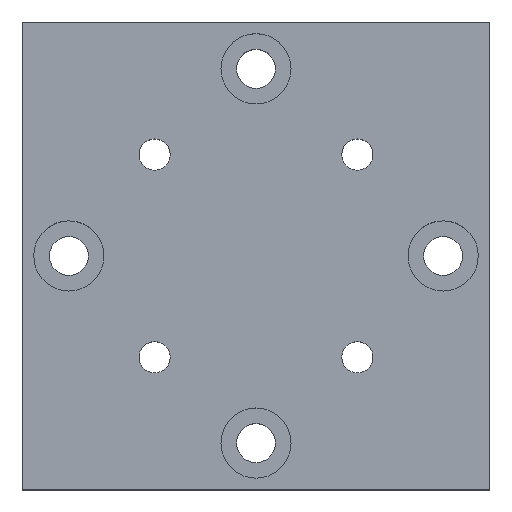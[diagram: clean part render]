
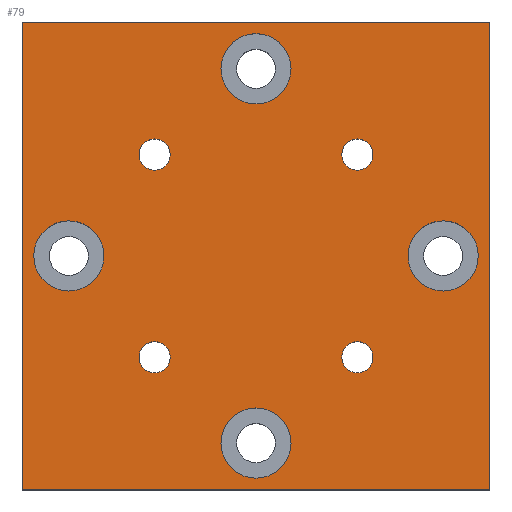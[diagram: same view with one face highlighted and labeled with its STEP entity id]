
A CAD part, top view. The second image highlights one B-rep face of the part: STEP entity #79.
In plain terms, the highlighted planar face has unit normal (0, 0, 1).
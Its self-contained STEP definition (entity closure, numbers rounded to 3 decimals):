
#79=ADVANCED_FACE('',(#158,#159,#160,#161,#162,#163,#164,#165,#166),#157,.T.);
#157=PLANE('',#500);
#158=FACE_OUTER_BOUND('',#501,.T.);
#159=FACE_BOUND('',#502,.T.);
#160=FACE_BOUND('',#503,.T.);
#161=FACE_BOUND('',#504,.T.);
#162=FACE_BOUND('',#505,.T.);
#163=FACE_BOUND('',#506,.T.);
#164=FACE_BOUND('',#507,.T.);
#165=FACE_BOUND('',#508,.T.);
#166=FACE_BOUND('',#509,.T.);
#497=CARTESIAN_POINT('',(-18.,-18.,0.));
#498=DIRECTION('',(0.,0.,1.));
#499=DIRECTION('',(1.,0.,0.));
#500=AXIS2_PLACEMENT_3D('',#497,#498,#499);
#501=EDGE_LOOP('',(#691,#692,#693,#694));
#502=EDGE_LOOP('',(#695,#696));
#503=EDGE_LOOP('',(#697,#698));
#504=EDGE_LOOP('',(#699,#700));
#505=EDGE_LOOP('',(#701,#702));
#506=EDGE_LOOP('',(#703,#704));
#507=EDGE_LOOP('',(#705,#706));
#508=EDGE_LOOP('',(#707,#708));
#509=EDGE_LOOP('',(#709,#710));
#691=ORIENTED_EDGE('',*,*,#835,.F.);
#692=ORIENTED_EDGE('',*,*,#854,.F.);
#693=ORIENTED_EDGE('',*,*,#831,.F.);
#694=ORIENTED_EDGE('',*,*,#828,.F.);
#695=ORIENTED_EDGE('',*,*,#855,.T.);
#696=ORIENTED_EDGE('',*,*,#856,.T.);
#697=ORIENTED_EDGE('',*,*,#857,.F.);
#698=ORIENTED_EDGE('',*,*,#858,.F.);
#699=ORIENTED_EDGE('',*,*,#859,.F.);
#700=ORIENTED_EDGE('',*,*,#860,.F.);
#701=ORIENTED_EDGE('',*,*,#861,.F.);
#702=ORIENTED_EDGE('',*,*,#862,.F.);
#703=ORIENTED_EDGE('',*,*,#863,.F.);
#704=ORIENTED_EDGE('',*,*,#864,.F.);
#705=ORIENTED_EDGE('',*,*,#865,.T.);
#706=ORIENTED_EDGE('',*,*,#866,.T.);
#707=ORIENTED_EDGE('',*,*,#867,.T.);
#708=ORIENTED_EDGE('',*,*,#868,.T.);
#709=ORIENTED_EDGE('',*,*,#869,.T.);
#710=ORIENTED_EDGE('',*,*,#870,.T.);
#828=EDGE_CURVE('',#912,#919,#920,.T.);
#831=EDGE_CURVE('',#919,#939,#940,.T.);
#835=EDGE_CURVE('',#960,#912,#967,.T.);
#854=EDGE_CURVE('',#939,#960,#1097,.T.);
#855=EDGE_CURVE('',#1103,#1104,#1105,.T.);
#856=EDGE_CURVE('',#1104,#1103,#1111,.T.);
#857=EDGE_CURVE('',#1117,#1118,#1119,.T.);
#858=EDGE_CURVE('',#1118,#1117,#1125,.T.);
#859=EDGE_CURVE('',#1131,#1132,#1133,.T.);
#860=EDGE_CURVE('',#1132,#1131,#1139,.T.);
#861=EDGE_CURVE('',#1145,#1146,#1147,.T.);
#862=EDGE_CURVE('',#1146,#1145,#1153,.T.);
#863=EDGE_CURVE('',#1159,#1160,#1161,.T.);
#864=EDGE_CURVE('',#1160,#1159,#1167,.T.);
#865=EDGE_CURVE('',#1173,#1174,#1175,.T.);
#866=EDGE_CURVE('',#1174,#1173,#1181,.T.);
#867=EDGE_CURVE('',#1187,#1188,#1189,.T.);
#868=EDGE_CURVE('',#1188,#1187,#1195,.T.);
#869=EDGE_CURVE('',#1201,#1202,#1203,.T.);
#870=EDGE_CURVE('',#1202,#1201,#1209,.T.);
#912=VERTEX_POINT('',#1472);
#919=VERTEX_POINT('',#1476);
#920=LINE('',#1477,#1478);
#939=VERTEX_POINT('',#1487);
#940=LINE('',#1488,#1489);
#960=VERTEX_POINT('',#1499);
#967=LINE('',#1503,#1504);
#1097=LINE('',#1592,#1593);
#1103=VERTEX_POINT('',#1595);
#1104=VERTEX_POINT('',#1596);
#1105=CIRCLE('',#1600,1.);
#1111=CIRCLE('',#1604,1.);
#1117=VERTEX_POINT('',#1605);
#1118=VERTEX_POINT('',#1606);
#1119=CIRCLE('',#1610,2.25);
#1125=CIRCLE('',#1614,2.25);
#1131=VERTEX_POINT('',#1615);
#1132=VERTEX_POINT('',#1616);
#1133=CIRCLE('',#1620,2.25);
#1139=CIRCLE('',#1624,2.25);
#1145=VERTEX_POINT('',#1625);
#1146=VERTEX_POINT('',#1626);
#1147=CIRCLE('',#1630,2.25);
#1153=CIRCLE('',#1634,2.25);
#1159=VERTEX_POINT('',#1635);
#1160=VERTEX_POINT('',#1636);
#1161=CIRCLE('',#1640,2.25);
#1167=CIRCLE('',#1644,2.25);
#1173=VERTEX_POINT('',#1645);
#1174=VERTEX_POINT('',#1646);
#1175=CIRCLE('',#1650,1.);
#1181=CIRCLE('',#1654,1.);
#1187=VERTEX_POINT('',#1655);
#1188=VERTEX_POINT('',#1656);
#1189=CIRCLE('',#1660,1.);
#1195=CIRCLE('',#1664,1.);
#1201=VERTEX_POINT('',#1665);
#1202=VERTEX_POINT('',#1666);
#1203=CIRCLE('',#1670,1.);
#1209=CIRCLE('',#1674,1.);
#1472=CARTESIAN_POINT('',(-15.,-15.,0.));
#1476=CARTESIAN_POINT('',(-15.,15.,0.));
#1477=CARTESIAN_POINT('',(-15.,-15.,0.));
#1478=VECTOR('',#1479,30.);
#1479=DIRECTION('',(0.,1.,0.));
#1487=CARTESIAN_POINT('',(15.,15.,0.));
#1488=CARTESIAN_POINT('',(-15.,15.,0.));
#1489=VECTOR('',#1490,30.);
#1490=DIRECTION('',(1.,0.,0.));
#1499=CARTESIAN_POINT('',(15.,-15.,0.));
#1503=CARTESIAN_POINT('',(15.,-15.,0.));
#1504=VECTOR('',#1505,30.);
#1505=DIRECTION('',(-1.,0.,0.));
#1592=CARTESIAN_POINT('',(15.,15.,0.));
#1593=VECTOR('',#1594,30.);
#1594=DIRECTION('',(0.,-1.,0.));
#1595=CARTESIAN_POINT('',(-6.5,7.5,0.));
#1596=CARTESIAN_POINT('',(-6.5,5.5,0.));
#1597=CARTESIAN_POINT('',(-6.5,6.5,0.));
#1598=DIRECTION('',(0.,0.,-1.));
#1599=DIRECTION('',(0.,1.,0.));
#1600=AXIS2_PLACEMENT_3D('',#1597,#1598,#1599);
#1601=CARTESIAN_POINT('',(-6.5,6.5,0.));
#1602=DIRECTION('',(0.,0.,-1.));
#1603=DIRECTION('',(0.,1.,0.));
#1604=AXIS2_PLACEMENT_3D('',#1601,#1602,#1603);
#1605=CARTESIAN_POINT('',(2.25,-12.,0.));
#1606=CARTESIAN_POINT('',(-2.25,-12.,0.));
#1607=CARTESIAN_POINT('',(0.,-12.,0.));
#1608=DIRECTION('',(0.,0.,1.));
#1609=DIRECTION('',(-1.,0.,0.));
#1610=AXIS2_PLACEMENT_3D('',#1607,#1608,#1609);
#1611=CARTESIAN_POINT('',(0.,-12.,0.));
#1612=DIRECTION('',(0.,0.,1.));
#1613=DIRECTION('',(-1.,0.,0.));
#1614=AXIS2_PLACEMENT_3D('',#1611,#1612,#1613);
#1615=CARTESIAN_POINT('',(-9.75,0.,0.));
#1616=CARTESIAN_POINT('',(-14.25,0.,0.));
#1617=CARTESIAN_POINT('',(-12.,0.,0.));
#1618=DIRECTION('',(0.,0.,1.));
#1619=DIRECTION('',(-1.,0.,0.));
#1620=AXIS2_PLACEMENT_3D('',#1617,#1618,#1619);
#1621=CARTESIAN_POINT('',(-12.,0.,0.));
#1622=DIRECTION('',(0.,0.,1.));
#1623=DIRECTION('',(-1.,0.,0.));
#1624=AXIS2_PLACEMENT_3D('',#1621,#1622,#1623);
#1625=CARTESIAN_POINT('',(2.25,12.,0.));
#1626=CARTESIAN_POINT('',(-2.25,12.,0.));
#1627=CARTESIAN_POINT('',(0.,12.,0.));
#1628=DIRECTION('',(0.,0.,1.));
#1629=DIRECTION('',(-1.,0.,0.));
#1630=AXIS2_PLACEMENT_3D('',#1627,#1628,#1629);
#1631=CARTESIAN_POINT('',(0.,12.,0.));
#1632=DIRECTION('',(0.,0.,1.));
#1633=DIRECTION('',(-1.,0.,0.));
#1634=AXIS2_PLACEMENT_3D('',#1631,#1632,#1633);
#1635=CARTESIAN_POINT('',(14.25,0.,0.));
#1636=CARTESIAN_POINT('',(9.75,0.,0.));
#1637=CARTESIAN_POINT('',(12.,0.,0.));
#1638=DIRECTION('',(0.,0.,1.));
#1639=DIRECTION('',(-1.,0.,0.));
#1640=AXIS2_PLACEMENT_3D('',#1637,#1638,#1639);
#1641=CARTESIAN_POINT('',(12.,0.,0.));
#1642=DIRECTION('',(0.,0.,1.));
#1643=DIRECTION('',(-1.,0.,0.));
#1644=AXIS2_PLACEMENT_3D('',#1641,#1642,#1643);
#1645=CARTESIAN_POINT('',(6.5,-5.5,0.));
#1646=CARTESIAN_POINT('',(6.5,-7.5,0.));
#1647=CARTESIAN_POINT('',(6.5,-6.5,0.));
#1648=DIRECTION('',(0.,0.,-1.));
#1649=DIRECTION('',(0.,1.,0.));
#1650=AXIS2_PLACEMENT_3D('',#1647,#1648,#1649);
#1651=CARTESIAN_POINT('',(6.5,-6.5,0.));
#1652=DIRECTION('',(0.,0.,-1.));
#1653=DIRECTION('',(0.,1.,0.));
#1654=AXIS2_PLACEMENT_3D('',#1651,#1652,#1653);
#1655=CARTESIAN_POINT('',(6.5,7.5,0.));
#1656=CARTESIAN_POINT('',(6.5,5.5,0.));
#1657=CARTESIAN_POINT('',(6.5,6.5,0.));
#1658=DIRECTION('',(0.,0.,-1.));
#1659=DIRECTION('',(0.,1.,0.));
#1660=AXIS2_PLACEMENT_3D('',#1657,#1658,#1659);
#1661=CARTESIAN_POINT('',(6.5,6.5,0.));
#1662=DIRECTION('',(0.,0.,-1.));
#1663=DIRECTION('',(0.,1.,0.));
#1664=AXIS2_PLACEMENT_3D('',#1661,#1662,#1663);
#1665=CARTESIAN_POINT('',(-6.5,-5.5,0.));
#1666=CARTESIAN_POINT('',(-6.5,-7.5,0.));
#1667=CARTESIAN_POINT('',(-6.5,-6.5,0.));
#1668=DIRECTION('',(0.,0.,-1.));
#1669=DIRECTION('',(0.,1.,0.));
#1670=AXIS2_PLACEMENT_3D('',#1667,#1668,#1669);
#1671=CARTESIAN_POINT('',(-6.5,-6.5,0.));
#1672=DIRECTION('',(0.,0.,-1.));
#1673=DIRECTION('',(0.,1.,0.));
#1674=AXIS2_PLACEMENT_3D('',#1671,#1672,#1673);
